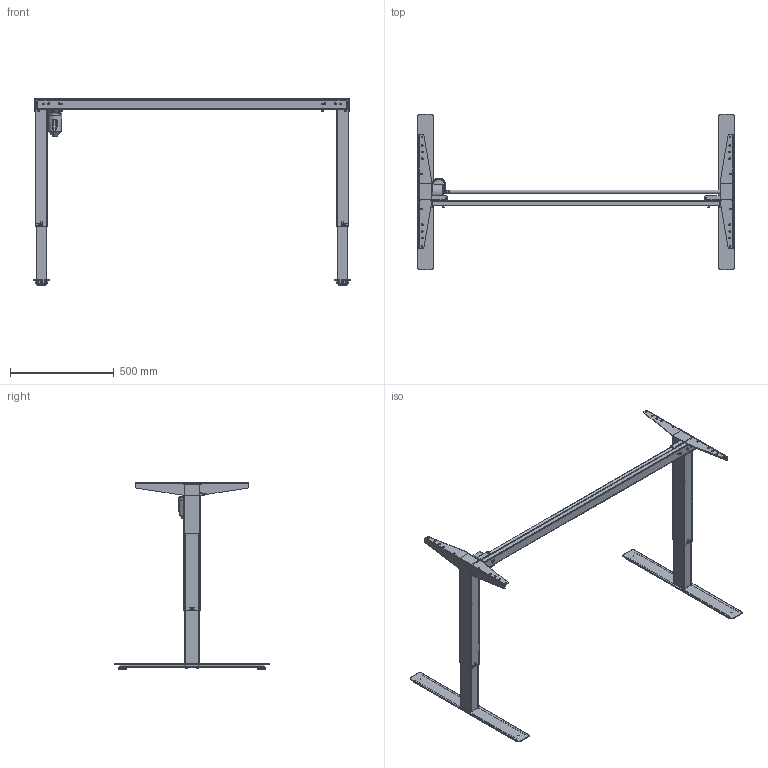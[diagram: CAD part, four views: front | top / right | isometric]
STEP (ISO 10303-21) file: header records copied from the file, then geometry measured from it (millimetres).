
FILE_DESCRIPTION (( 'STEP AP203' ), '1' );
FILE_NAME ('Tech-draw_501-47_XX152.STEP', '2020-12-21T07:35:32', ( '' ), ( '' ), 'SwSTEP 2.0', 'SolidWorks 2020', '' );
FILE_SCHEMA (( 'CONFIG_CONTROL_DESIGN' ));
Length unit declared in the file: millimetre
Products named in the file (35): 324520_silver; 150630_chrome; 352690; 352360_silver; 341800; 340760; 348720_shell view; 324520; 140850_chrome1; 144260_152; 326900; 345610_shell view; 352350_silver; 340560; 304650; 344820_shell view; 340540_shell view; 352160; 332570; 150660_chrome; 150650_chrome; 344430_silver; 347910_152; 151650_501-47 XC152; 352610; 345600; 151440_chrome; 140860_chrome1; Tech-draw_501-47_XX152; 341220; 347920_152; 352300_shell view; 352150
Assembly tree (60 placements, depth 5):
  Tech-draw_501-47_XX152
    151650_501-47 XC152
      347910_152
      144260_152
        347920_152
        340560
        341220
      150650_chrome
        140860_chrome1
          345610_shell view
          344820_shell view
          348720_shell view
        150630_chrome
          352300_shell view
          352690
        324520_silver  x2
        341800  x2
        326900  x2
        344430_silver
        352360_silver
        352350_silver
        151440_chrome
          352160
          352150
        304650  x4
        352610
      150660_chrome
        140850_chrome1
          345600
          344820_shell view
          340540_shell view
        150630_chrome
          352300_shell view
          352690
        324520  x2
        341800  x2
        352350_silver
        352360_silver
        151440_chrome
          352160
          352150
        304650  x4
      340760  x4
      332570  x4
Bounding box: 1529 x 750 x 901.26 mm (x, y, z)
Volume: 2895768.7 mm3; surface area: 2612075.1 mm2
Topology: 50 solids, 50 shells, 4438 faces, 11338 edges, 7135 vertices
Faces by surface type: plane 2313, cylinder 1208, bspline 636, cone 133, torus 116, sphere 32
Full cylindrical faces by diameter (mm): 2.8 x4, 3 x2, 4.6 x4, 5 x32, 6 x18, 6.7 x8, 7 x8, 7.6 x4, 8 x12, 8.5 x2, 10 x8, 11.9 x2, 12 x1, 13 x2, 15 x4, 16 x2, 18 x1, 20 x1, 24 x1, 37.6 x8, 60 x1
Entity records: 119222 total; most frequent: CARTESIAN_POINT 52383, ORIENTED_EDGE 13418, DIRECTION 12180, EDGE_CURVE 6709, VERTEX_POINT 4311, AXIS2_PLACEMENT_3D 4237, LINE 3706, VECTOR 3706
